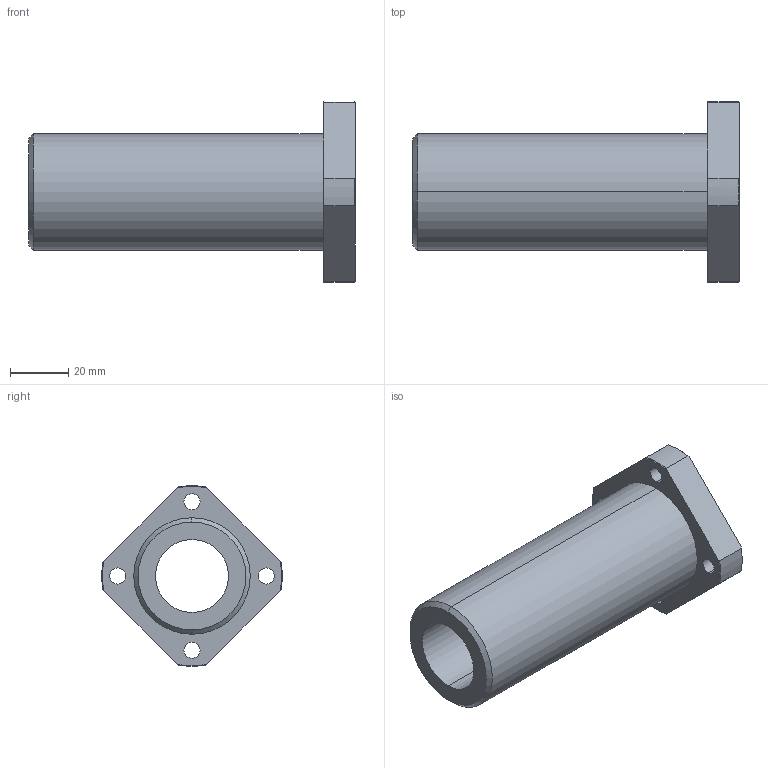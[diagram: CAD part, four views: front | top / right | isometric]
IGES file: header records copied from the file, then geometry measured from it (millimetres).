
Start section: 3D InterOp IGES (Version 21 0 1), Spatial Corp. Copyright (c) 1999-2007.
Global section: file name: DFPJ25.igs; native system: Spatial Corp.; preprocessor: 3D InterOp GENERIC/IGES 3.0; author: Noname; organization: Noname; date: 20220324.140422; units: millimetre
Bounding box: 112 x 61.92 x 62 mm (x, y, z)
Surface area: 28046 mm2 (no closed solid volume)
Topology: 0 solids, 0 shells, 48 faces, 240 edges, 240 vertices
Faces by surface type: revolution 37, extrusion 11
